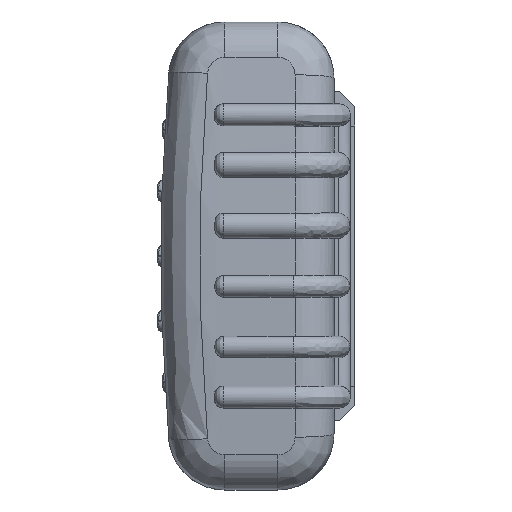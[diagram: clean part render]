
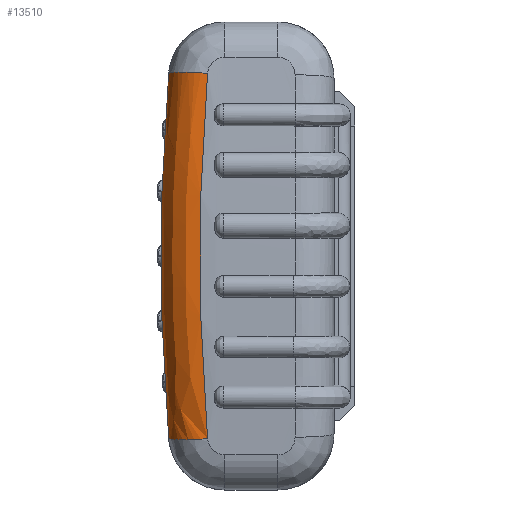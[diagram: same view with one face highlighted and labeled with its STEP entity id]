
A CAD part, left-side view. The second image highlights one B-rep face of the part: STEP entity #13510.
In plain terms, the highlighted free-form (B-spline) face has degree [3, 2] with [6, 3] control points.
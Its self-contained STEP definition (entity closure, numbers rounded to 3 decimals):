
#1275 = CARTESIAN_POINT ( 'NONE',  ( 80.121, 39.941, 14.196 ) ) ;
#1302 = VERTEX_POINT ( 'NONE', #36555 ) ;
#3395 = CARTESIAN_POINT ( 'NONE',  ( 80.121, 39.941, 14.101 ) ) ;
#5409 = ORIENTED_EDGE ( 'NONE', *, *, #27855, .F. ) ;
#5735 = CARTESIAN_POINT ( 'NONE',  ( 89.121, 39.941, -14.469 ) ) ;
#7441 = ORIENTED_EDGE ( 'NONE', *, *, #23250, .T. ) ;
#7600 = AXIS2_PLACEMENT_3D ( 'NONE', #38321, #11901, #42738 ) ;
#7860 = CARTESIAN_POINT ( 'NONE',  ( 79.497, 39.343, -28.135 ) ) ;
#7915 = CARTESIAN_POINT ( 'NONE',  ( 89.121, 30.941, -14.107 ) ) ;
#9430 = CARTESIAN_POINT ( 'NONE',  ( 87.154, 38.088, 42.898 ) ) ;
#10193 = CARTESIAN_POINT ( 'NONE',  ( 88.476, 30.346, -28.258 ) ) ;
#10646 = CARTESIAN_POINT ( 'NONE',  ( 78.259, 38.156, 42.101 ) ) ;
#11901 = DIRECTION ( 'NONE',  ( 0.09, 0.084, 0.992 ) ) ;
#12335 = CARTESIAN_POINT ( 'NONE',  ( 88.486, 30.354, 28.156 ) ) ;
#13510 = ADVANCED_FACE ( 'NONE', ( #24854 ), #45513, .T. ) ;
#13959 = B_SPLINE_CURVE_WITH_KNOTS ( 'NONE', 3,
 ( #56330, #47450, #7915, #38756, #12335, #43178 ),
 .UNSPECIFIED., .F., .F.,
 ( 4, 2, 4 ),
 ( 0.004, 0.046, 0.088 ),
 .UNSPECIFIED. ) ;
#14425 = CARTESIAN_POINT ( 'NONE',  ( 87.222, 29.188, 42.148 ) ) ;
#14607 = CARTESIAN_POINT ( 'NONE',  ( 79.489, 39.335, -28.227 ) ) ;
#15331 = CARTESIAN_POINT ( 'NONE',  ( 78.259, 29.188, 41.339 ) ) ;
#15437 = ORIENTED_EDGE ( 'NONE', *, *, #34237, .T. ) ;
#16151 = CARTESIAN_POINT ( 'NONE',  ( 87.222, 29.188, -42.148 ) ) ;
#16887 = CARTESIAN_POINT ( 'NONE',  ( 78.259, 38.156, -42.101 ) ) ;
#18447 = VERTEX_POINT ( 'NONE', #16887 ) ;
#18855 = CARTESIAN_POINT ( 'NONE',  ( 88.476, 30.346, 28.258 ) ) ;
#19044 = CARTESIAN_POINT ( 'NONE',  ( 87.154, 38.088, -42.898 ) ) ;
#19771 = DIRECTION ( 'NONE',  ( -0.996, 0., -0.09 ) ) ;
#20961 = CARTESIAN_POINT ( 'NONE',  ( 79.497, 39.343, 28.135 ) ) ;
#23250 = EDGE_CURVE ( 'NONE', #25533, #1302, #36294, .T. ) ;
#23288 = CIRCLE ( 'NONE', #7600, 9. ) ;
#23316 = CARTESIAN_POINT ( 'NONE',  ( 79.489, 39.335, 28.227 ) ) ;
#23876 = ORIENTED_EDGE ( 'NONE', *, *, #27002, .F. ) ;
#23925 = VERTEX_POINT ( 'NONE', #16151 ) ;
#24854 = FACE_OUTER_BOUND ( 'NONE', #25047, .T. ) ;
#25047 = EDGE_LOOP ( 'NONE', ( #5409, #15437, #23876, #7441 ) ) ;
#25533 = VERTEX_POINT ( 'NONE', #10646 ) ;
#27002 = EDGE_CURVE ( 'NONE', #25533, #18447, #53228, .T. ) ;
#27739 = CARTESIAN_POINT ( 'NONE',  ( 89.121, 39.941, 14.469 ) ) ;
#27855 = EDGE_CURVE ( 'NONE', #23925, #1302, #13959, .T. ) ;
#32184 = CARTESIAN_POINT ( 'NONE',  ( 89.121, 30.941, -14.212 ) ) ;
#34237 = EDGE_CURVE ( 'NONE', #23925, #18447, #23288, .T. ) ;
#34282 = CARTESIAN_POINT ( 'NONE',  ( 80.121, 39.941, -14.101 ) ) ;
#36294 = CIRCLE ( 'NONE', #50366, 9. ) ;
#36555 = CARTESIAN_POINT ( 'NONE',  ( 87.222, 29.188, 42.148 ) ) ;
#36584 = CARTESIAN_POINT ( 'NONE',  ( 80.121, 39.941, -14.196 ) ) ;
#38321 = CARTESIAN_POINT ( 'NONE',  ( 78.259, 29.188, -41.339 ) ) ;
#38703 = CARTESIAN_POINT ( 'NONE',  ( 78.259, 38.156, -42.101 ) ) ;
#38756 = CARTESIAN_POINT ( 'NONE',  ( 89.121, 30.941, 14.107 ) ) ;
#41009 = CARTESIAN_POINT ( 'NONE',  ( 88.456, 39.314, -28.734 ) ) ;
#42738 = DIRECTION ( 'NONE',  ( 0.996, 0., -0.09 ) ) ;
#43178 = CARTESIAN_POINT ( 'NONE',  ( 87.222, 29.188, 42.148 ) ) ;
#45276 = CARTESIAN_POINT ( 'NONE',  ( 78.259, 38.156, 42.101 ) ) ;
#45473 = CARTESIAN_POINT ( 'NONE',  ( 87.222, 29.188, -42.148 ) ) ;
#45513 =( BOUNDED_SURFACE ( )  B_SPLINE_SURFACE ( 3, 2, ( 
 ( #14425, #9430, #45276 ),
 ( #18855, #49745, #23316 ),
 ( #54166, #27739, #1275 ),
 ( #32184, #5735, #36584 ),
 ( #10193, #41009, #14607 ),
 ( #45473, #19044, #49936 ) ),
 .UNSPECIFIED., .F., .F., .F. ) 
 B_SPLINE_SURFACE_WITH_KNOTS ( ( 4, 2, 4 ),
 ( 3, 3 ),
 ( 0.084, 0.125, 0.166 ),
 ( 0., 1. ),
 .UNSPECIFIED. ) 
 GEOMETRIC_REPRESENTATION_ITEM ( )  RATIONAL_B_SPLINE_SURFACE ( (
 ( 1., 0.71, 1.),
 ( 1., 0.708, 1.),
 ( 1., 0.707, 1.),
 ( 1., 0.707, 1.),
 ( 1., 0.708, 1.),
 ( 1., 0.71, 1.) ) ) 
 REPRESENTATION_ITEM ( '' )  SURFACE ( )  );
#46199 = DIRECTION ( 'NONE',  ( 0.09, 0.084, -0.992 ) ) ;
#47450 = CARTESIAN_POINT ( 'NONE',  ( 88.486, 30.354, -28.156 ) ) ;
#49745 = CARTESIAN_POINT ( 'NONE',  ( 88.456, 39.314, 28.734 ) ) ;
#49936 = CARTESIAN_POINT ( 'NONE',  ( 78.259, 38.156, -42.101 ) ) ;
#50366 = AXIS2_PLACEMENT_3D ( 'NONE', #15331, #46199, #19771 ) ;
#53228 = B_SPLINE_CURVE_WITH_KNOTS ( 'NONE', 3,
 ( #56277, #20961, #3395, #34282, #7860, #38703 ),
 .UNSPECIFIED., .F., .F.,
 ( 4, 2, 4 ),
 ( 0.012, 0.054, 0.096 ),
 .UNSPECIFIED. ) ;
#54166 = CARTESIAN_POINT ( 'NONE',  ( 89.121, 30.941, 14.212 ) ) ;
#56277 = CARTESIAN_POINT ( 'NONE',  ( 78.259, 38.156, 42.101 ) ) ;
#56330 = CARTESIAN_POINT ( 'NONE',  ( 87.222, 29.188, -42.148 ) ) ;
